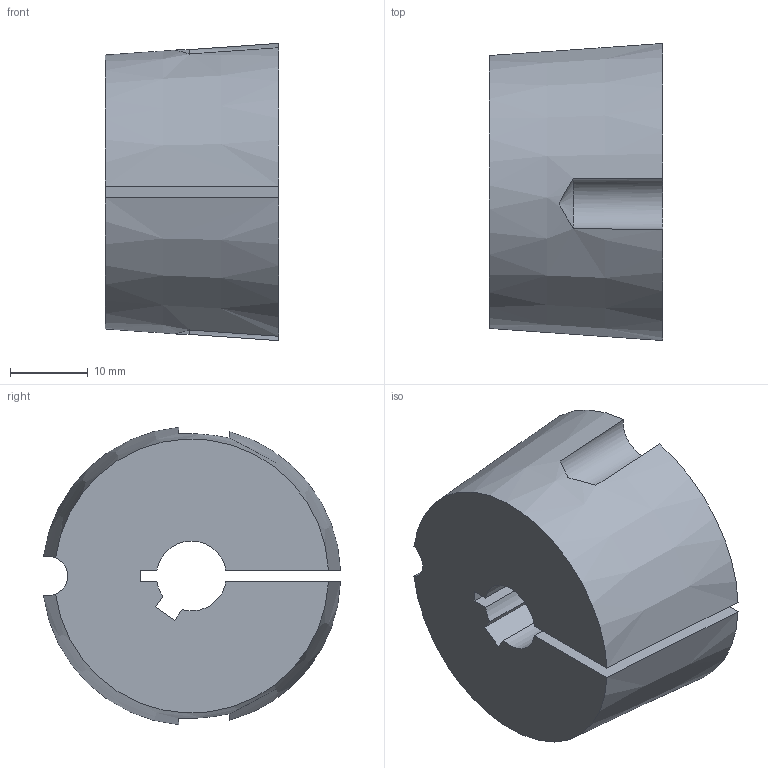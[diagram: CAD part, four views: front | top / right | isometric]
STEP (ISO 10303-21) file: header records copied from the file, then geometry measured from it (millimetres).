
FILE_DESCRIPTION( ( 'STEP AP203' ), '1' );
FILE_NAME( 'D:/export/antriebselemente/spannbuchsen_und_spannsaetze/taper-spannbuchsen_1008_bis_5050/taper-spannbuchsen_62250209Isometric_16.stp', '2018-12-11T11:10:57', ( '' ), ( '' ), ' ', 'PARTsolutions', ' ' );
FILE_SCHEMA( ( 'CONFIG_CONTROL_DESIGN' ) );
Length unit declared in the file: millimetre
Products named in the file (1): _taper-spannbuchsen_62250209
Bounding box: 22.3 x 38.22 x 38.26 mm (x, y, z)
Volume: 21078.2 mm3; surface area: 5992.9 mm2
Topology: 1 solids, 1 shells, 20 faces, 54 edges, 36 vertices
Faces by surface type: plane 10, cylinder 6, cone 4
Entity records: 736 total; most frequent: CARTESIAN_POINT 187, ORIENTED_EDGE 108, DIRECTION 104, EDGE_CURVE 54, AXIS2_PLACEMENT_3D 39, VERTEX_POINT 36, LINE 26, VECTOR 26
